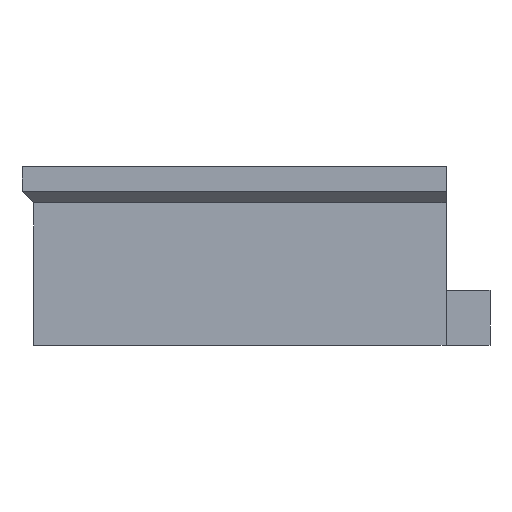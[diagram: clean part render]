
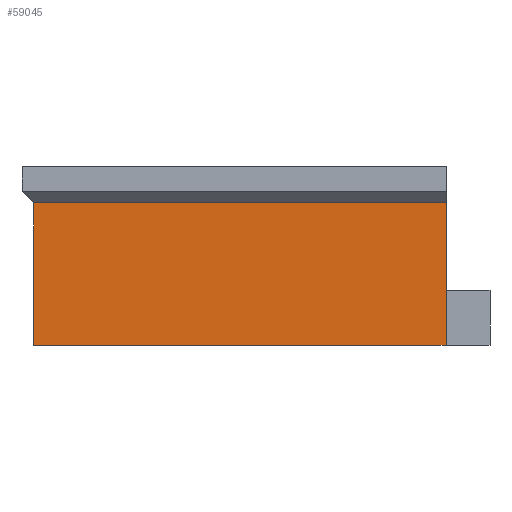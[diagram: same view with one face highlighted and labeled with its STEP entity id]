
A CAD part, front view. The second image highlights one B-rep face of the part: STEP entity #59045.
In plain terms, the highlighted planar face has unit normal (0, -1, 0).
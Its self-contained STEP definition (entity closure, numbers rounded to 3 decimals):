
#845 = PLANE('',#846);
#846 = AXIS2_PLACEMENT_3D('',#847,#848,#849);
#847 = CARTESIAN_POINT('',(0.,-2.673,0.));
#848 = DIRECTION('',(0.,0.,1.));
#849 = DIRECTION('',(1.,0.,-0.));
#980 = PLANE('',#981);
#981 = AXIS2_PLACEMENT_3D('',#982,#983,#984);
#982 = CARTESIAN_POINT('',(-192.,152.,0.));
#983 = DIRECTION('',(1.,0.,-0.));
#984 = DIRECTION('',(0.,-1.,0.));
#1029 = VERTEX_POINT('',#1030);
#1030 = CARTESIAN_POINT('',(-192.,-176.,25.9));
#1065 = B_SPLINE_SURFACE_WITH_KNOTS('',1,1,(
    (#1066,#1067)
    ,(#1068,#1069
    )),.UNSPECIFIED.,.F.,.F.,.F.,(2,2),(2,2),(0.,388.2),(0.,1.),
  .PIECEWISE_BEZIER_KNOTS.);
#1066 = CARTESIAN_POINT('',(-192.,-176.,25.9));
#1067 = CARTESIAN_POINT('',(-194.1,-178.1,28.));
#1068 = CARTESIAN_POINT('',(192.,-176.,25.9));
#1069 = CARTESIAN_POINT('',(194.1,-178.1,28.));
#1101 = EDGE_CURVE('',#1029,#1102,#1104,.T.);
#1102 = VERTEX_POINT('',#1103);
#1103 = CARTESIAN_POINT('',(-117.,-176.,25.9));
#1104 = SURFACE_CURVE('',#1105,(#1109,#1115),.PCURVE_S1.);
#1105 = LINE('',#1106,#1107);
#1106 = CARTESIAN_POINT('',(-192.,-176.,25.9));
#1107 = VECTOR('',#1108,1.);
#1108 = DIRECTION('',(1.,0.,0.));
#1109 = PCURVE('',#1065,#1110);
#1110 = DEFINITIONAL_REPRESENTATION('',(#1111),#1114);
#1111 = B_SPLINE_CURVE_WITH_KNOTS('',1,(#1112,#1113),.UNSPECIFIED.,.F.,
  .F.,(2,2),(0.,384.),.PIECEWISE_BEZIER_KNOTS.);
#1112 = CARTESIAN_POINT('',(0.,0.));
#1113 = CARTESIAN_POINT('',(388.2,0.));
#1114 = ( GEOMETRIC_REPRESENTATION_CONTEXT(2) 
PARAMETRIC_REPRESENTATION_CONTEXT() REPRESENTATION_CONTEXT('2D SPACE',''
  ) );
#1115 = PCURVE('',#1116,#1121);
#1116 = PLANE('',#1117);
#1117 = AXIS2_PLACEMENT_3D('',#1118,#1119,#1120);
#1118 = CARTESIAN_POINT('',(-192.,-176.,0.));
#1119 = DIRECTION('',(0.,1.,0.));
#1120 = DIRECTION('',(1.,0.,0.));
#1121 = DEFINITIONAL_REPRESENTATION('',(#1122),#1126);
#1122 = LINE('',#1123,#1124);
#1123 = CARTESIAN_POINT('',(0.,-25.9));
#1124 = VECTOR('',#1125,1.);
#1125 = DIRECTION('',(1.,0.));
#1126 = ( GEOMETRIC_REPRESENTATION_CONTEXT(2) 
PARAMETRIC_REPRESENTATION_CONTEXT() REPRESENTATION_CONTEXT('2D SPACE',''
  ) );
#1148 = PLANE('',#1149);
#1149 = AXIS2_PLACEMENT_3D('',#1150,#1151,#1152);
#1150 = CARTESIAN_POINT('',(-117.,-200.,-1.));
#1151 = DIRECTION('',(1.,0.,-0.));
#1152 = DIRECTION('',(0.,0.,1.));
#1421 = EDGE_CURVE('',#1422,#1102,#1424,.T.);
#1422 = VERTEX_POINT('',#1423);
#1423 = CARTESIAN_POINT('',(-117.,-176.,0.));
#1424 = SURFACE_CURVE('',#1425,(#1429,#1436),.PCURVE_S1.);
#1425 = LINE('',#1426,#1427);
#1426 = CARTESIAN_POINT('',(-117.,-176.,-0.5));
#1427 = VECTOR('',#1428,1.);
#1428 = DIRECTION('',(0.,-0.,1.));
#1429 = PCURVE('',#1148,#1430);
#1430 = DEFINITIONAL_REPRESENTATION('',(#1431),#1435);
#1431 = LINE('',#1432,#1433);
#1432 = CARTESIAN_POINT('',(0.5,-24.));
#1433 = VECTOR('',#1434,1.);
#1434 = DIRECTION('',(1.,0.));
#1435 = ( GEOMETRIC_REPRESENTATION_CONTEXT(2) 
PARAMETRIC_REPRESENTATION_CONTEXT() REPRESENTATION_CONTEXT('2D SPACE',''
  ) );
#1436 = PCURVE('',#1116,#1437);
#1437 = DEFINITIONAL_REPRESENTATION('',(#1438),#1442);
#1438 = LINE('',#1439,#1440);
#1439 = CARTESIAN_POINT('',(75.,0.5));
#1440 = VECTOR('',#1441,1.);
#1441 = DIRECTION('',(0.,-1.));
#1442 = ( GEOMETRIC_REPRESENTATION_CONTEXT(2) 
PARAMETRIC_REPRESENTATION_CONTEXT() REPRESENTATION_CONTEXT('2D SPACE',''
  ) );
#59045 = ADVANCED_FACE('',(#59046),#1116,.F.);
#59046 = FACE_BOUND('',#59047,.F.);
#59047 = EDGE_LOOP('',(#59048,#59071,#59092,#59093));
#59048 = ORIENTED_EDGE('',*,*,#59049,.F.);
#59049 = EDGE_CURVE('',#59050,#1422,#59052,.T.);
#59050 = VERTEX_POINT('',#59051);
#59051 = CARTESIAN_POINT('',(-192.,-176.,0.));
#59052 = SURFACE_CURVE('',#59053,(#59057,#59064),.PCURVE_S1.);
#59053 = LINE('',#59054,#59055);
#59054 = CARTESIAN_POINT('',(-192.,-176.,0.));
#59055 = VECTOR('',#59056,1.);
#59056 = DIRECTION('',(1.,0.,0.));
#59057 = PCURVE('',#1116,#59058);
#59058 = DEFINITIONAL_REPRESENTATION('',(#59059),#59063);
#59059 = LINE('',#59060,#59061);
#59060 = CARTESIAN_POINT('',(0.,0.));
#59061 = VECTOR('',#59062,1.);
#59062 = DIRECTION('',(1.,0.));
#59063 = ( GEOMETRIC_REPRESENTATION_CONTEXT(2) 
PARAMETRIC_REPRESENTATION_CONTEXT() REPRESENTATION_CONTEXT('2D SPACE',''
  ) );
#59064 = PCURVE('',#845,#59065);
#59065 = DEFINITIONAL_REPRESENTATION('',(#59066),#59070);
#59066 = LINE('',#59067,#59068);
#59067 = CARTESIAN_POINT('',(-192.,-173.327));
#59068 = VECTOR('',#59069,1.);
#59069 = DIRECTION('',(1.,0.));
#59070 = ( GEOMETRIC_REPRESENTATION_CONTEXT(2) 
PARAMETRIC_REPRESENTATION_CONTEXT() REPRESENTATION_CONTEXT('2D SPACE',''
  ) );
#59071 = ORIENTED_EDGE('',*,*,#59072,.T.);
#59072 = EDGE_CURVE('',#59050,#1029,#59073,.T.);
#59073 = SURFACE_CURVE('',#59074,(#59078,#59085),.PCURVE_S1.);
#59074 = LINE('',#59075,#59076);
#59075 = CARTESIAN_POINT('',(-192.,-176.,0.));
#59076 = VECTOR('',#59077,1.);
#59077 = DIRECTION('',(0.,0.,1.));
#59078 = PCURVE('',#1116,#59079);
#59079 = DEFINITIONAL_REPRESENTATION('',(#59080),#59084);
#59080 = LINE('',#59081,#59082);
#59081 = CARTESIAN_POINT('',(0.,0.));
#59082 = VECTOR('',#59083,1.);
#59083 = DIRECTION('',(0.,-1.));
#59084 = ( GEOMETRIC_REPRESENTATION_CONTEXT(2) 
PARAMETRIC_REPRESENTATION_CONTEXT() REPRESENTATION_CONTEXT('2D SPACE',''
  ) );
#59085 = PCURVE('',#980,#59086);
#59086 = DEFINITIONAL_REPRESENTATION('',(#59087),#59091);
#59087 = LINE('',#59088,#59089);
#59088 = CARTESIAN_POINT('',(328.,0.));
#59089 = VECTOR('',#59090,1.);
#59090 = DIRECTION('',(0.,-1.));
#59091 = ( GEOMETRIC_REPRESENTATION_CONTEXT(2) 
PARAMETRIC_REPRESENTATION_CONTEXT() REPRESENTATION_CONTEXT('2D SPACE',''
  ) );
#59092 = ORIENTED_EDGE('',*,*,#1101,.T.);
#59093 = ORIENTED_EDGE('',*,*,#1421,.F.);
